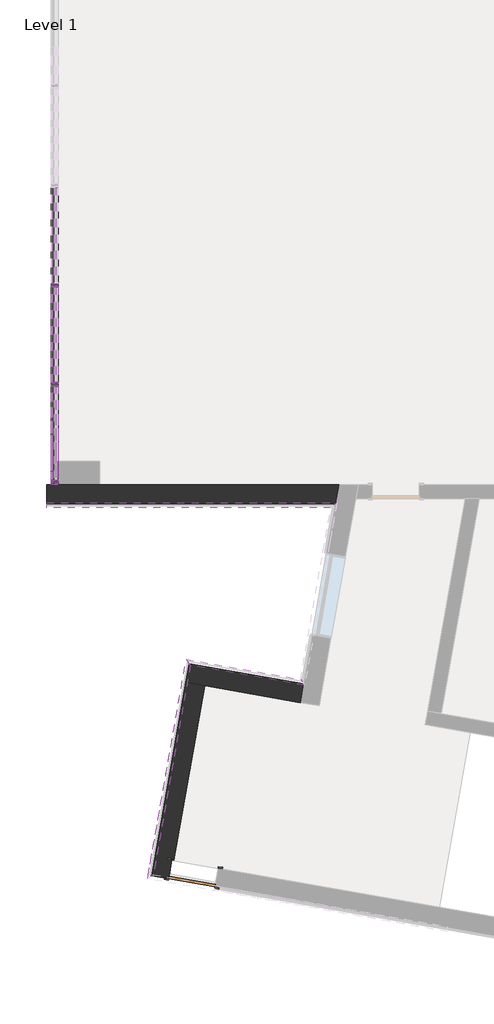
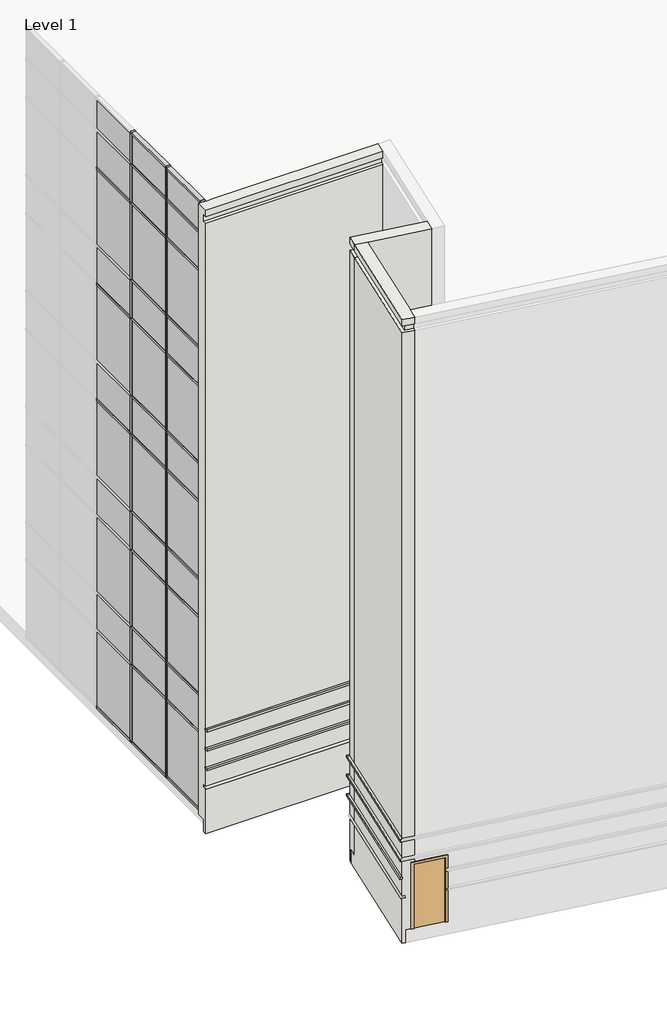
# One storey, part 1 of 23: 46 members, 33 plates, 9 proxies, 3 walls, 1 door.
"""IFC4 building model written with IfcOpenShell, lengths in millimetres."""

from ifc_helpers import new_model, si_unit, frame, origin, place, context, project, spatial, polyline, outline, extrude, faceted_brep, transform, mapped, element, save
from components import door_f5d74769, member_f92b8aa2, member_810865a4, member_6d5c3e5e, member_9764dd38, member_64ee9188, member_bca00a8a, member_8e09d03a, member_4d31274b, member_52939b3a, system_panel_glazed_14c75400, system_panel_glazed_4817d5da, system_panel_solid_5dfe6f83, system_panel_solid_e25e2004, system_panel_solid_b7551183, system_panel_solid_f88b124e, system_panel_solid_18cbf428, system_panel_solid_41530def

model = new_model("IFC4")

# Units and contexts
model_context = context("Model", 3, world=origin())
ifc_project = project(units=[si_unit("LENGTHUNIT", "METRE", prefix="MILLI")], contexts=[model_context])

# Site, building, storey
site = spatial("IfcSite", under=ifc_project)
building = spatial("IfcBuilding", under=site)
storey = spatial("IfcBuildingStorey", under=building, Name="Level 1", Elevation=0.0)

# Proxies
placement = place(None, origin())
element("IfcBuildingElementProxy", 1, Name="Reveals", at=placement, inside=storey, context=model_context, shape_type="SweptSolid", body=[
    extrude(outline(polyline([(-64209.7895211, -31309.2809359), (-64135.1020032, -31415.9457657), (-66236.287825, -31045.4500138), (-66310.9753429, -30938.785184), (-64209.7895211, -31309.2809359)])), frame((0.0, 0.0, 1625.6), z_axis=(0.0, 0.0, 1.0), x_axis=(1.0, 0.0, 0.0)), (0.0, 0.0, 1.0), 67.7333333),
])
element("IfcBuildingElementProxy", 2, Name="Reveals", at=placement, inside=storey, context=model_context, shape_type="SweptSolid", body=[
    extrude(outline(polyline([(-64209.7895211, -31309.2809359), (-64135.1020032, -31415.9457657), (-66236.287825, -31045.4500138), (-66310.9753429, -30938.785184), (-64209.7895211, -31309.2809359)])), frame((0.0, 0.0, 2235.2), z_axis=(0.0, 0.0, 1.0), x_axis=(1.0, 0.0, 0.0)), (0.0, 0.0, 1.0), 67.7333333),
])
element("IfcBuildingElementProxy", 3, Name="Reveals", at=placement, inside=storey, context=model_context, shape_type="SweptSolid", body=[
    extrude(outline(polyline([(-64209.7895211, -31309.2809359), (-64135.1020032, -31415.9457657), (-66236.287825, -31045.4500138), (-66310.9753429, -30938.785184), (-64209.7895211, -31309.2809359)])), frame((0.0, 0.0, 2844.8), z_axis=(0.0, 0.0, 1.0), x_axis=(1.0, 0.0, 0.0)), (0.0, 0.0, 1.0), 67.7333333),
])
element("IfcBuildingElementProxy", 4, Name="Reveals", at=placement, inside=storey, context=model_context, shape_type="SweptSolid", body=[
    extrude(outline(polyline([(-66310.9753429, -30938.785184), (-66236.287825, -31045.4500138), (-66919.9407005, -34922.6381374), (-67010.6168744, -34906.6494815), (-66310.9753429, -30938.785184)])), frame((0.0, 0.0, 1625.6), z_axis=(0.0, 0.0, 1.0), x_axis=(1.0, 0.0, 0.0)), (0.0, 0.0, 1.0), 67.7333333),
])
element("IfcBuildingElementProxy", 5, Name="Reveals", at=placement, inside=storey, context=model_context, shape_type="SweptSolid", body=[
    extrude(outline(polyline([(-66310.9753429, -30938.785184), (-66236.287825, -31045.4500138), (-66915.5300368, -34897.6240205), (-67022.1948666, -34972.3115384), (-66310.9753429, -30938.785184)])), frame((0.0, 0.0, 2235.2), z_axis=(0.0, 0.0, 1.0), x_axis=(1.0, 0.0, 0.0)), (0.0, 0.0, 1.0), 67.7333333),
])
element("IfcBuildingElementProxy", 6, Name="Reveals", at=placement, inside=storey, context=model_context, shape_type="SweptSolid", body=[
    extrude(outline(polyline([(-66310.9753429, -30938.785184), (-66236.287825, -31045.4500138), (-66915.5300368, -34897.6240205), (-67022.1948666, -34972.3115384), (-66310.9753429, -30938.785184)])), frame((0.0, 0.0, 2844.8), z_axis=(0.0, 0.0, 1.0), x_axis=(1.0, 0.0, 0.0)), (0.0, 0.0, 1.0), 67.7333333),
])
element("IfcBuildingElementProxy", 7, Name="Reveals", at=placement, inside=storey, context=model_context, shape_type="SweptSolid", body=[
    extrude(outline(polyline([(-63542.7957974, -28056.8103492), (-63652.5265095, -28148.8853492), (-68878.5489105, -28148.8853492), (-68878.5489105, -28056.8103492), (-63542.7957974, -28056.8103492)])), frame((0.0, 0.0, 1625.6), z_axis=(0.0, 0.0, 1.0), x_axis=(1.0, 0.0, 0.0)), (0.0, 0.0, 1.0), 67.7333333),
])
element("IfcBuildingElementProxy", 8, Name="Reveals", at=placement, inside=storey, context=model_context, shape_type="SweptSolid", body=[
    extrude(outline(polyline([(-63542.7957974, -28056.8103492), (-63652.5265095, -28148.8853492), (-68878.5489105, -28148.8853492), (-68878.5489105, -28056.8103492), (-63542.7957974, -28056.8103492)])), frame((0.0, 0.0, 2235.2), z_axis=(0.0, 0.0, 1.0), x_axis=(1.0, 0.0, 0.0)), (0.0, 0.0, 1.0), 67.7333333),
])
element("IfcBuildingElementProxy", 9, Name="Reveals", at=placement, inside=storey, context=model_context, shape_type="SweptSolid", body=[
    extrude(outline(polyline([(-63542.7957974, -28056.8103492), (-63652.5265095, -28148.8853492), (-68878.5489105, -28148.8853492), (-68878.5489105, -28056.8103492), (-63542.7957974, -28056.8103492)])), frame((0.0, 0.0, 2844.8), z_axis=(0.0, 0.0, 1.0), x_axis=(1.0, 0.0, 0.0)), (0.0, 0.0, 1.0), 67.7333333),
])

# Door
door_shape = door_f5d74769(model_context)
element("IfcDoor", 10, ObjectType="Single-Flush : 34\" x 80\"", at=placement, inside=storey, context=model_context, shape_type="MappedRepresentation", body=[
    mapped(door_shape, transform((-66179.5661532, -34874.2552841, 0.0), x_axis=(-0.9848077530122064, 0.17364817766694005, 0.0), y_axis=(-0.17364817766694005, -0.9848077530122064, 0.0), z_axis=(0.0, 0.0, 1.0))),
])

# Members
member_shape = member_f92b8aa2(model_context)
element("IfcMember", 11, ObjectType="Rectangular Mullion : 2.5\" x 5\" rectangular", at=placement, inside=storey, context=model_context, shape_type="MappedRepresentation", body=[
    mapped(member_shape, transform((-68724.2599961, -25885.1103492, 18288.0), x_axis=(0.0, 1.0, 0.0), y_axis=(1.0, 0.0, 0.0), z_axis=(0.0, 0.0, -1.0))),
])
element("IfcMember", 12, ObjectType="Rectangular Mullion : 2.5\" x 5\" rectangular", at=placement, inside=storey, context=model_context, shape_type="MappedRepresentation", body=[
    mapped(member_shape, transform((-68724.2599961, -24056.3103492, 18288.0), x_axis=(0.0, 1.0, 0.0), y_axis=(1.0, 0.0, 0.0), z_axis=(0.0, 0.0, -1.0))),
])
member_2_shape = member_810865a4(model_context)
element("IfcMember", 13, ObjectType="Rectangular Mullion : 2.5\" x 5\" rectangular", at=placement, inside=storey, context=model_context, shape_type="MappedRepresentation", body=[
    mapped(member_2_shape, transform((-68724.2599961, -25885.1103492, 3657.6), x_axis=(0.0, 1.0, 0.0), y_axis=(1.0, 0.0, 0.0), z_axis=(0.0, 0.0, -1.0))),
])
element("IfcMember", 14, ObjectType="Rectangular Mullion : 2.5\" x 5\" rectangular", at=placement, inside=storey, context=model_context, shape_type="MappedRepresentation", body=[
    mapped(member_2_shape, transform((-68724.2599961, -24056.3103492, 3657.6), x_axis=(0.0, 1.0, 0.0), y_axis=(1.0, 0.0, 0.0), z_axis=(0.0, 0.0, -1.0))),
])
element("IfcMember", 15, ObjectType="Rectangular Mullion : 2.5\" x 5\" rectangular", at=placement, inside=storey, context=model_context, shape_type="MappedRepresentation", body=[
    mapped(member_2_shape, transform((-68724.2599961, -25885.1103492, 7315.2), x_axis=(0.0, 1.0, 0.0), y_axis=(1.0, 0.0, 0.0), z_axis=(0.0, 0.0, -1.0))),
])
element("IfcMember", 16, ObjectType="Rectangular Mullion : 2.5\" x 5\" rectangular", at=placement, inside=storey, context=model_context, shape_type="MappedRepresentation", body=[
    mapped(member_2_shape, transform((-68724.2599961, -24056.3103492, 7315.2), x_axis=(0.0, 1.0, 0.0), y_axis=(1.0, 0.0, 0.0), z_axis=(0.0, 0.0, -1.0))),
])
element("IfcMember", 17, ObjectType="Rectangular Mullion : 2.5\" x 5\" rectangular", at=placement, inside=storey, context=model_context, shape_type="MappedRepresentation", body=[
    mapped(member_2_shape, transform((-68724.2599961, -25885.1103492, 10972.8), x_axis=(0.0, 1.0, 0.0), y_axis=(1.0, 0.0, 0.0), z_axis=(0.0, 0.0, -1.0))),
])
element("IfcMember", 18, ObjectType="Rectangular Mullion : 2.5\" x 5\" rectangular", at=placement, inside=storey, context=model_context, shape_type="MappedRepresentation", body=[
    mapped(member_2_shape, transform((-68724.2599961, -24056.3103492, 10972.8), x_axis=(0.0, 1.0, 0.0), y_axis=(1.0, 0.0, 0.0), z_axis=(0.0, 0.0, -1.0))),
])
element("IfcMember", 19, ObjectType="Rectangular Mullion : 2.5\" x 5\" rectangular", at=placement, inside=storey, context=model_context, shape_type="MappedRepresentation", body=[
    mapped(member_2_shape, transform((-68724.2599961, -25885.1103492, 14630.4), x_axis=(0.0, 1.0, 0.0), y_axis=(1.0, 0.0, 0.0), z_axis=(0.0, 0.0, -1.0))),
])
element("IfcMember", 20, ObjectType="Rectangular Mullion : 2.5\" x 5\" rectangular", at=placement, inside=storey, context=model_context, shape_type="MappedRepresentation", body=[
    mapped(member_2_shape, transform((-68724.2599961, -24056.3103492, 14630.4), x_axis=(0.0, 1.0, 0.0), y_axis=(1.0, 0.0, 0.0), z_axis=(0.0, 0.0, -1.0))),
])
member_3_shape = member_6d5c3e5e(model_context)
element("IfcMember", 21, ObjectType="Rectangular Mullion : 2.5\" x 5\" rectangular", at=placement, inside=storey, context=model_context, shape_type="MappedRepresentation", body=[
    mapped(member_3_shape, transform((-68724.2599961, -24088.0603492, 19304.0), x_axis=(0.0, 0.0, 1.0), y_axis=(1.0, 0.0, 0.0), z_axis=(0.0, 1.0, 0.0))),
])
member_4_shape = member_9764dd38(model_context)
element("IfcMember", 22, ObjectType="Rectangular Mullion : 2.5\" x 5\" rectangular", at=placement, inside=storey, context=model_context, shape_type="MappedRepresentation", body=[
    mapped(member_4_shape, transform((-68724.2599961, -22259.2603492, 17068.8), x_axis=(0.0, 0.0, 1.0), y_axis=(1.0, 0.0, 0.0), z_axis=(0.0, 1.0, 0.0))),
])
element("IfcMember", 23, ObjectType="Rectangular Mullion : 2.5\" x 5\" rectangular", at=placement, inside=storey, context=model_context, shape_type="MappedRepresentation", body=[
    mapped(member_4_shape, transform((-68724.2599961, -24088.0603492, 17068.8), x_axis=(0.0, 0.0, 1.0), y_axis=(1.0, 0.0, 0.0), z_axis=(0.0, 1.0, 0.0))),
])
element("IfcMember", 24, ObjectType="Rectangular Mullion : 2.5\" x 5\" rectangular", at=placement, inside=storey, context=model_context, shape_type="MappedRepresentation", body=[
    mapped(member_4_shape, transform((-68724.2599961, -22259.2603492, 13411.2), x_axis=(0.0, 0.0, 1.0), y_axis=(1.0, 0.0, 0.0), z_axis=(0.0, 1.0, 0.0))),
])
element("IfcMember", 25, ObjectType="Rectangular Mullion : 2.5\" x 5\" rectangular", at=placement, inside=storey, context=model_context, shape_type="MappedRepresentation", body=[
    mapped(member_4_shape, transform((-68724.2599961, -24088.0603492, 13411.2), x_axis=(0.0, 0.0, 1.0), y_axis=(1.0, 0.0, 0.0), z_axis=(0.0, 1.0, 0.0))),
])
element("IfcMember", 26, ObjectType="Rectangular Mullion : 2.5\" x 5\" rectangular", at=placement, inside=storey, context=model_context, shape_type="MappedRepresentation", body=[
    mapped(member_4_shape, transform((-68724.2599961, -22259.2603492, 9753.6), x_axis=(0.0, 0.0, 1.0), y_axis=(1.0, 0.0, 0.0), z_axis=(0.0, 1.0, 0.0))),
])
element("IfcMember", 27, ObjectType="Rectangular Mullion : 2.5\" x 5\" rectangular", at=placement, inside=storey, context=model_context, shape_type="MappedRepresentation", body=[
    mapped(member_4_shape, transform((-68724.2599961, -24088.0603492, 9753.6), x_axis=(0.0, 0.0, 1.0), y_axis=(1.0, 0.0, 0.0), z_axis=(0.0, 1.0, 0.0))),
])
element("IfcMember", 28, ObjectType="Rectangular Mullion : 2.5\" x 5\" rectangular", at=placement, inside=storey, context=model_context, shape_type="MappedRepresentation", body=[
    mapped(member_4_shape, transform((-68724.2599961, -24088.0603492, 6096.0), x_axis=(0.0, 0.0, 1.0), y_axis=(1.0, 0.0, 0.0), z_axis=(0.0, 1.0, 0.0))),
])
element("IfcMember", 29, ObjectType="Rectangular Mullion : 2.5\" x 5\" rectangular", at=placement, inside=storey, context=model_context, shape_type="MappedRepresentation", body=[
    mapped(member_4_shape, transform((-68724.2599961, -24088.0603492, 2470.15), x_axis=(0.0, 0.0, 1.0), y_axis=(1.0, 0.0, 0.0), z_axis=(0.0, 1.0, 0.0))),
])
element("IfcMember", 30, ObjectType="Rectangular Mullion : 2.5\" x 5\" rectangular", at=placement, inside=storey, context=model_context, shape_type="MappedRepresentation", body=[
    mapped(member_2_shape, transform((-68724.2599961, -25885.1103492, 0.0), x_axis=(0.0, 1.0, 0.0), y_axis=(1.0, 0.0, 0.0), z_axis=(0.0, 0.0, -1.0))),
])
element("IfcMember", 31, ObjectType="Rectangular Mullion : 2.5\" x 5\" rectangular", at=placement, inside=storey, context=model_context, shape_type="MappedRepresentation", body=[
    mapped(member_2_shape, transform((-68724.2599961, -24056.3103492, 0.0), x_axis=(0.0, 1.0, 0.0), y_axis=(1.0, 0.0, 0.0), z_axis=(0.0, 0.0, -1.0))),
])
element("IfcMember", 32, ObjectType="Rectangular Mullion : 2.5\" x 5\" rectangular", at=placement, inside=storey, context=model_context, shape_type="MappedRepresentation", body=[
    mapped(member_3_shape, transform((-68724.2599961, -25853.3603492, 0.0), x_axis=(0.0, 0.0, -1.0), y_axis=(1.0, 0.0, 0.0), z_axis=(0.0, -1.0, 0.0))),
])
element("IfcMember", 33, ObjectType="Rectangular Mullion : 2.5\" x 5\" rectangular", at=placement, inside=storey, context=model_context, shape_type="MappedRepresentation", body=[
    mapped(member_3_shape, transform((-68724.2599961, -24024.5603492, 0.0), x_axis=(0.0, 0.0, -1.0), y_axis=(1.0, 0.0, 0.0), z_axis=(0.0, -1.0, 0.0))),
])
element("IfcMember", 34, ObjectType="Rectangular Mullion : 2.5\" x 5\" rectangular", at=placement, inside=storey, context=model_context, shape_type="MappedRepresentation", body=[
    mapped(member_4_shape, transform((-68724.2599961, -24088.0603492, 3657.6), x_axis=(0.0, 0.0, 1.0), y_axis=(1.0, 0.0, 0.0), z_axis=(0.0, 1.0, 0.0))),
])
element("IfcMember", 35, ObjectType="Rectangular Mullion : 2.5\" x 5\" rectangular", at=placement, inside=storey, context=model_context, shape_type="MappedRepresentation", body=[
    mapped(member_4_shape, transform((-68724.2599961, -24088.0603492, 7315.2), x_axis=(0.0, 0.0, 1.0), y_axis=(1.0, 0.0, 0.0), z_axis=(0.0, 1.0, 0.0))),
])
element("IfcMember", 36, ObjectType="Rectangular Mullion : 2.5\" x 5\" rectangular", at=placement, inside=storey, context=model_context, shape_type="MappedRepresentation", body=[
    mapped(member_4_shape, transform((-68724.2599961, -24088.0603492, 10972.8), x_axis=(0.0, 0.0, 1.0), y_axis=(1.0, 0.0, 0.0), z_axis=(0.0, 1.0, 0.0))),
])
element("IfcMember", 37, ObjectType="Rectangular Mullion : 2.5\" x 5\" rectangular", at=placement, inside=storey, context=model_context, shape_type="MappedRepresentation", body=[
    mapped(member_4_shape, transform((-68724.2599961, -24088.0603492, 14630.4), x_axis=(0.0, 0.0, 1.0), y_axis=(1.0, 0.0, 0.0), z_axis=(0.0, 1.0, 0.0))),
])
element("IfcMember", 38, ObjectType="Rectangular Mullion : 2.5\" x 5\" rectangular", at=placement, inside=storey, context=model_context, shape_type="MappedRepresentation", body=[
    mapped(member_4_shape, transform((-68724.2599961, -24088.0603492, 18288.0), x_axis=(0.0, 0.0, 1.0), y_axis=(1.0, 0.0, 0.0), z_axis=(0.0, 1.0, 0.0))),
])
member_5_shape = member_64ee9188(model_context)
element("IfcMember", 39, ObjectType="Rectangular Mullion : 2.5\" x 5\" rectangular", at=placement, inside=storey, context=model_context, shape_type="MappedRepresentation", body=[
    mapped(member_5_shape, transform((-68724.2599961, -25916.8603492, 19304.0), x_axis=(0.0, 0.0, 1.0), y_axis=(1.0, 0.0, 0.0), z_axis=(0.0, 1.0, 0.0))),
])
element("IfcMember", 40, ObjectType="Rectangular Mullion : 2.5\" x 5\" rectangular", at=placement, inside=storey, context=model_context, shape_type="MappedRepresentation", body=[
    mapped(member_5_shape, transform((-68724.2599961, -27650.4103492, 0.0), x_axis=(0.0, 0.0, -1.0), y_axis=(1.0, 0.0, 0.0), z_axis=(0.0, -1.0, 0.0))),
])
member_6_shape = member_bca00a8a(model_context)
element("IfcMember", 41, ObjectType="Rectangular Mullion : 2.5\" x 5\" rectangular", at=placement, inside=storey, context=model_context, shape_type="MappedRepresentation", body=[
    mapped(member_6_shape, transform((-68724.2599961, -25916.8603492, 3657.6), x_axis=(0.0, 0.0, 1.0), y_axis=(1.0, 0.0, 0.0), z_axis=(0.0, 1.0, 0.0))),
])
element("IfcMember", 42, ObjectType="Rectangular Mullion : 2.5\" x 5\" rectangular", at=placement, inside=storey, context=model_context, shape_type="MappedRepresentation", body=[
    mapped(member_6_shape, transform((-68724.2599961, -25916.8603492, 7315.2), x_axis=(0.0, 0.0, 1.0), y_axis=(1.0, 0.0, 0.0), z_axis=(0.0, 1.0, 0.0))),
])
element("IfcMember", 43, ObjectType="Rectangular Mullion : 2.5\" x 5\" rectangular", at=placement, inside=storey, context=model_context, shape_type="MappedRepresentation", body=[
    mapped(member_6_shape, transform((-68724.2599961, -25916.8603492, 10972.8), x_axis=(0.0, 0.0, 1.0), y_axis=(1.0, 0.0, 0.0), z_axis=(0.0, 1.0, 0.0))),
])
element("IfcMember", 44, ObjectType="Rectangular Mullion : 2.5\" x 5\" rectangular", at=placement, inside=storey, context=model_context, shape_type="MappedRepresentation", body=[
    mapped(member_6_shape, transform((-68724.2599961, -25916.8603492, 14630.4), x_axis=(0.0, 0.0, 1.0), y_axis=(1.0, 0.0, 0.0), z_axis=(0.0, 1.0, 0.0))),
])
element("IfcMember", 45, ObjectType="Rectangular Mullion : 2.5\" x 5\" rectangular", at=placement, inside=storey, context=model_context, shape_type="MappedRepresentation", body=[
    mapped(member_6_shape, transform((-68724.2599961, -25916.8603492, 18288.0), x_axis=(0.0, 0.0, 1.0), y_axis=(1.0, 0.0, 0.0), z_axis=(0.0, 1.0, 0.0))),
])
member_7_shape = member_8e09d03a(model_context)
element("IfcMember", 46, ObjectType="Rectangular Mullion : 2.5\" x 5\" rectangular", at=placement, inside=storey, context=model_context, shape_type="MappedRepresentation", body=[
    mapped(member_7_shape, transform((-68724.2599961, -27713.9103492, 19304.0), x_axis=(0.0, -1.0, 0.0), y_axis=(1.0, 0.0, 0.0), z_axis=(0.0, 0.0, 1.0))),
])
member_8_shape = member_4d31274b(model_context)
element("IfcMember", 47, ObjectType="Rectangular Mullion : 2.5\" x 5\" rectangular", at=placement, inside=storey, context=model_context, shape_type="MappedRepresentation", body=[
    mapped(member_8_shape, transform((-68724.2599961, -27713.9103492, 3657.6), x_axis=(0.0, -1.0, 0.0), y_axis=(1.0, 0.0, 0.0), z_axis=(0.0, 0.0, 1.0))),
])
element("IfcMember", 48, ObjectType="Rectangular Mullion : 2.5\" x 5\" rectangular", at=placement, inside=storey, context=model_context, shape_type="MappedRepresentation", body=[
    mapped(member_8_shape, transform((-68724.2599961, -27713.9103492, 7315.2), x_axis=(0.0, -1.0, 0.0), y_axis=(1.0, 0.0, 0.0), z_axis=(0.0, 0.0, 1.0))),
])
element("IfcMember", 49, ObjectType="Rectangular Mullion : 2.5\" x 5\" rectangular", at=placement, inside=storey, context=model_context, shape_type="MappedRepresentation", body=[
    mapped(member_8_shape, transform((-68724.2599961, -27713.9103492, 10972.8), x_axis=(0.0, -1.0, 0.0), y_axis=(1.0, 0.0, 0.0), z_axis=(0.0, 0.0, 1.0))),
])
element("IfcMember", 50, ObjectType="Rectangular Mullion : 2.5\" x 5\" rectangular", at=placement, inside=storey, context=model_context, shape_type="MappedRepresentation", body=[
    mapped(member_8_shape, transform((-68724.2599961, -27713.9103492, 14630.4), x_axis=(0.0, -1.0, 0.0), y_axis=(1.0, 0.0, 0.0), z_axis=(0.0, 0.0, 1.0))),
])
element("IfcMember", 51, ObjectType="Rectangular Mullion : 2.5\" x 5\" rectangular", at=placement, inside=storey, context=model_context, shape_type="MappedRepresentation", body=[
    mapped(member_8_shape, transform((-68724.2599961, -27713.9103492, 18288.0), x_axis=(0.0, -1.0, 0.0), y_axis=(1.0, 0.0, 0.0), z_axis=(0.0, 0.0, 1.0))),
])
member_9_shape = member_52939b3a(model_context)
element("IfcMember", 52, ObjectType="Rectangular Mullion : 2.5\" x 5\" rectangular", at=placement, inside=storey, context=model_context, shape_type="MappedRepresentation", body=[
    mapped(member_9_shape, transform((-68724.2599961, -25916.8603492, 17068.8), x_axis=(0.0, 0.0, 1.0), y_axis=(1.0, 0.0, 0.0), z_axis=(0.0, 1.0, 0.0))),
])
element("IfcMember", 53, ObjectType="Rectangular Mullion : 2.5\" x 5\" rectangular", at=placement, inside=storey, context=model_context, shape_type="MappedRepresentation", body=[
    mapped(member_9_shape, transform((-68724.2599961, -25916.8603492, 13411.2), x_axis=(0.0, 0.0, 1.0), y_axis=(1.0, 0.0, 0.0), z_axis=(0.0, 1.0, 0.0))),
])
element("IfcMember", 54, ObjectType="Rectangular Mullion : 2.5\" x 5\" rectangular", at=placement, inside=storey, context=model_context, shape_type="MappedRepresentation", body=[
    mapped(member_9_shape, transform((-68724.2599961, -25916.8603492, 9753.6), x_axis=(0.0, 0.0, 1.0), y_axis=(1.0, 0.0, 0.0), z_axis=(0.0, 1.0, 0.0))),
])
element("IfcMember", 55, ObjectType="Rectangular Mullion : 2.5\" x 5\" rectangular", at=placement, inside=storey, context=model_context, shape_type="MappedRepresentation", body=[
    mapped(member_9_shape, transform((-68724.2599961, -25916.8603492, 6096.0), x_axis=(0.0, 0.0, 1.0), y_axis=(1.0, 0.0, 0.0), z_axis=(0.0, 1.0, 0.0))),
])
element("IfcMember", 56, ObjectType="Rectangular Mullion : 2.5\" x 5\" rectangular", at=placement, inside=storey, context=model_context, shape_type="MappedRepresentation", body=[
    mapped(member_9_shape, transform((-68724.2599961, -25916.8603492, 2470.15), x_axis=(0.0, 0.0, 1.0), y_axis=(1.0, 0.0, 0.0), z_axis=(0.0, 1.0, 0.0))),
])

# Plates
system_panel_glazed_shape = system_panel_glazed_14c75400(model_context)
element("IfcPlate", 57, ObjectType="System Panel : Glazed", at=placement, inside=storey, context=model_context, shape_type="MappedRepresentation", body=[
    mapped(system_panel_glazed_shape, transform((-68724.2599961, -23141.9103492, 14662.15), x_axis=(0.0, 1.0, 0.0), y_axis=(-1.0, 0.0, 0.0), z_axis=(0.0, 0.0, 1.0))),
])
element("IfcPlate", 58, ObjectType="System Panel : Glazed", at=placement, inside=storey, context=model_context, shape_type="MappedRepresentation", body=[
    mapped(system_panel_glazed_shape, transform((-68724.2599961, -24970.7103492, 14662.15), x_axis=(0.0, 1.0, 0.0), y_axis=(-1.0, 0.0, 0.0), z_axis=(0.0, 0.0, 1.0))),
])
element("IfcPlate", 59, ObjectType="System Panel : Glazed", at=placement, inside=storey, context=model_context, shape_type="MappedRepresentation", body=[
    mapped(system_panel_glazed_shape, transform((-68724.2599961, -23141.9103492, 11004.55), x_axis=(0.0, 1.0, 0.0), y_axis=(-1.0, 0.0, 0.0), z_axis=(0.0, 0.0, 1.0))),
])
element("IfcPlate", 60, ObjectType="System Panel : Glazed", at=placement, inside=storey, context=model_context, shape_type="MappedRepresentation", body=[
    mapped(system_panel_glazed_shape, transform((-68724.2599961, -24970.7103492, 11004.55), x_axis=(0.0, 1.0, 0.0), y_axis=(-1.0, 0.0, 0.0), z_axis=(0.0, 0.0, 1.0))),
])
element("IfcPlate", 61, ObjectType="System Panel : Glazed", at=placement, inside=storey, context=model_context, shape_type="MappedRepresentation", body=[
    mapped(system_panel_glazed_shape, transform((-68724.2599961, -23141.9103492, 7346.95), x_axis=(0.0, 1.0, 0.0), y_axis=(-1.0, 0.0, 0.0), z_axis=(0.0, 0.0, 1.0))),
])
element("IfcPlate", 62, ObjectType="System Panel : Glazed", at=placement, inside=storey, context=model_context, shape_type="MappedRepresentation", body=[
    mapped(system_panel_glazed_shape, transform((-68724.2599961, -24970.7103492, 7346.95), x_axis=(0.0, 1.0, 0.0), y_axis=(-1.0, 0.0, 0.0), z_axis=(0.0, 0.0, 1.0))),
])
element("IfcPlate", 63, ObjectType="System Panel : Glazed", at=placement, inside=storey, context=model_context, shape_type="MappedRepresentation", body=[
    mapped(system_panel_glazed_shape, transform((-68724.2599961, -23141.9103492, 3689.35), x_axis=(0.0, 1.0, 0.0), y_axis=(-1.0, 0.0, 0.0), z_axis=(0.0, 0.0, 1.0))),
])
element("IfcPlate", 64, ObjectType="System Panel : Glazed", at=placement, inside=storey, context=model_context, shape_type="MappedRepresentation", body=[
    mapped(system_panel_glazed_shape, transform((-68724.2599961, -24970.7103492, 3689.35), x_axis=(0.0, 1.0, 0.0), y_axis=(-1.0, 0.0, 0.0), z_axis=(0.0, 0.0, 1.0))),
])
element("IfcPlate", 65, ObjectType="System Panel : Glazed", at=placement, inside=storey, context=model_context, shape_type="MappedRepresentation", body=[
    mapped(system_panel_glazed_shape, transform((-68724.2599961, -23141.9103492, 63.5), x_axis=(0.0, 1.0, 0.0), y_axis=(-1.0, 0.0, 0.0), z_axis=(0.0, 0.0, 1.0))),
])
element("IfcPlate", 66, ObjectType="System Panel : Glazed", at=placement, inside=storey, context=model_context, shape_type="MappedRepresentation", body=[
    mapped(system_panel_glazed_shape, transform((-68724.2599961, -24970.7103492, 63.5), x_axis=(0.0, 1.0, 0.0), y_axis=(-1.0, 0.0, 0.0), z_axis=(0.0, 0.0, 1.0))),
])
system_panel_glazed_2_shape = system_panel_glazed_4817d5da(model_context)
element("IfcPlate", 67, ObjectType="System Panel : Glazed", at=placement, inside=storey, context=model_context, shape_type="MappedRepresentation", body=[
    mapped(system_panel_glazed_2_shape, transform((-68724.2599961, -26823.3228492, 14662.15), x_axis=(0.0, 1.0, 0.0), y_axis=(-1.0, 0.0, 0.0), z_axis=(0.0, 0.0, 1.0))),
])
element("IfcPlate", 68, ObjectType="System Panel : Glazed", at=placement, inside=storey, context=model_context, shape_type="MappedRepresentation", body=[
    mapped(system_panel_glazed_2_shape, transform((-68724.2599961, -26823.3228492, 11004.55), x_axis=(0.0, 1.0, 0.0), y_axis=(-1.0, 0.0, 0.0), z_axis=(0.0, 0.0, 1.0))),
])
element("IfcPlate", 69, ObjectType="System Panel : Glazed", at=placement, inside=storey, context=model_context, shape_type="MappedRepresentation", body=[
    mapped(system_panel_glazed_2_shape, transform((-68724.2599961, -26823.3228492, 7346.95), x_axis=(0.0, 1.0, 0.0), y_axis=(-1.0, 0.0, 0.0), z_axis=(0.0, 0.0, 1.0))),
])
element("IfcPlate", 70, ObjectType="System Panel : Glazed", at=placement, inside=storey, context=model_context, shape_type="MappedRepresentation", body=[
    mapped(system_panel_glazed_2_shape, transform((-68724.2599961, -26823.3228492, 3689.35), x_axis=(0.0, 1.0, 0.0), y_axis=(-1.0, 0.0, 0.0), z_axis=(0.0, 0.0, 1.0))),
])
element("IfcPlate", 71, ObjectType="System Panel : Glazed", at=placement, inside=storey, context=model_context, shape_type="MappedRepresentation", body=[
    mapped(system_panel_glazed_2_shape, transform((-68724.2599961, -26823.3228492, 63.5), x_axis=(0.0, 1.0, 0.0), y_axis=(-1.0, 0.0, 0.0), z_axis=(0.0, 0.0, 1.0))),
])
system_panel_solid_shape = system_panel_solid_5dfe6f83(model_context)
element("IfcPlate", 72, ObjectType="System Panel : Solid", at=placement, inside=storey, context=model_context, shape_type="MappedRepresentation", body=[
    mapped(system_panel_solid_shape, transform((-68724.2599961, -24970.7103492, 18319.75), x_axis=(0.0, 1.0, 0.0), y_axis=(-1.0, 0.0, 0.0), z_axis=(0.0, 0.0, 1.0))),
])
element("IfcPlate", 73, ObjectType="System Panel : Solid", at=placement, inside=storey, context=model_context, shape_type="MappedRepresentation", body=[
    mapped(system_panel_solid_shape, transform((-68724.2599961, -23141.9103492, 18319.75), x_axis=(0.0, 1.0, 0.0), y_axis=(-1.0, 0.0, 0.0), z_axis=(0.0, 0.0, 1.0))),
])
system_panel_solid_2_shape = system_panel_solid_e25e2004(model_context)
element("IfcPlate", 74, ObjectType="System Panel : Solid", at=placement, inside=storey, context=model_context, shape_type="MappedRepresentation", body=[
    mapped(system_panel_solid_2_shape, transform((-68724.2599961, -23141.9103492, 17100.55), x_axis=(0.0, 1.0, 0.0), y_axis=(-1.0, 0.0, 0.0), z_axis=(0.0, 0.0, 1.0))),
])
element("IfcPlate", 75, ObjectType="System Panel : Solid", at=placement, inside=storey, context=model_context, shape_type="MappedRepresentation", body=[
    mapped(system_panel_solid_2_shape, transform((-68724.2599961, -24970.7103492, 17100.55), x_axis=(0.0, 1.0, 0.0), y_axis=(-1.0, 0.0, 0.0), z_axis=(0.0, 0.0, 1.0))),
])
element("IfcPlate", 76, ObjectType="System Panel : Solid", at=placement, inside=storey, context=model_context, shape_type="MappedRepresentation", body=[
    mapped(system_panel_solid_2_shape, transform((-68724.2599961, -23141.9103492, 13442.95), x_axis=(0.0, 1.0, 0.0), y_axis=(-1.0, 0.0, 0.0), z_axis=(0.0, 0.0, 1.0))),
])
element("IfcPlate", 77, ObjectType="System Panel : Solid", at=placement, inside=storey, context=model_context, shape_type="MappedRepresentation", body=[
    mapped(system_panel_solid_2_shape, transform((-68724.2599961, -24970.7103492, 13442.95), x_axis=(0.0, 1.0, 0.0), y_axis=(-1.0, 0.0, 0.0), z_axis=(0.0, 0.0, 1.0))),
])
element("IfcPlate", 78, ObjectType="System Panel : Solid", at=placement, inside=storey, context=model_context, shape_type="MappedRepresentation", body=[
    mapped(system_panel_solid_2_shape, transform((-68724.2599961, -23141.9103492, 9785.35), x_axis=(0.0, 1.0, 0.0), y_axis=(-1.0, 0.0, 0.0), z_axis=(0.0, 0.0, 1.0))),
])
element("IfcPlate", 79, ObjectType="System Panel : Solid", at=placement, inside=storey, context=model_context, shape_type="MappedRepresentation", body=[
    mapped(system_panel_solid_2_shape, transform((-68724.2599961, -24970.7103492, 9785.35), x_axis=(0.0, 1.0, 0.0), y_axis=(-1.0, 0.0, 0.0), z_axis=(0.0, 0.0, 1.0))),
])
element("IfcPlate", 80, ObjectType="System Panel : Solid", at=placement, inside=storey, context=model_context, shape_type="MappedRepresentation", body=[
    mapped(system_panel_solid_2_shape, transform((-68724.2599961, -23141.9103492, 6127.75), x_axis=(0.0, 1.0, 0.0), y_axis=(-1.0, 0.0, 0.0), z_axis=(0.0, 0.0, 1.0))),
])
element("IfcPlate", 81, ObjectType="System Panel : Solid", at=placement, inside=storey, context=model_context, shape_type="MappedRepresentation", body=[
    mapped(system_panel_solid_2_shape, transform((-68724.2599961, -24970.7103492, 6127.75), x_axis=(0.0, 1.0, 0.0), y_axis=(-1.0, 0.0, 0.0), z_axis=(0.0, 0.0, 1.0))),
])
system_panel_solid_3_shape = system_panel_solid_b7551183(model_context)
element("IfcPlate", 82, ObjectType="System Panel : Solid", at=placement, inside=storey, context=model_context, shape_type="MappedRepresentation", body=[
    mapped(system_panel_solid_3_shape, transform((-68724.2599961, -23141.9103492, 2501.9), x_axis=(0.0, 1.0, 0.0), y_axis=(-1.0, 0.0, 0.0), z_axis=(0.0, 0.0, 1.0))),
])
element("IfcPlate", 83, ObjectType="System Panel : Solid", at=placement, inside=storey, context=model_context, shape_type="MappedRepresentation", body=[
    mapped(system_panel_solid_3_shape, transform((-68724.2599961, -24970.7103492, 2501.9), x_axis=(0.0, 1.0, 0.0), y_axis=(-1.0, 0.0, 0.0), z_axis=(0.0, 0.0, 1.0))),
])
system_panel_solid_4_shape = system_panel_solid_f88b124e(model_context)
element("IfcPlate", 84, ObjectType="System Panel : Solid", at=placement, inside=storey, context=model_context, shape_type="MappedRepresentation", body=[
    mapped(system_panel_solid_4_shape, transform((-68724.2599961, -26783.6353492, 18319.75), x_axis=(0.0, 1.0, 0.0), y_axis=(-1.0, 0.0, 0.0), z_axis=(0.0, 0.0, 1.0))),
])
system_panel_solid_5_shape = system_panel_solid_18cbf428(model_context)
element("IfcPlate", 85, ObjectType="System Panel : Solid", at=placement, inside=storey, context=model_context, shape_type="MappedRepresentation", body=[
    mapped(system_panel_solid_5_shape, transform((-68724.2599961, -26823.3228492, 17100.55), x_axis=(0.0, 1.0, 0.0), y_axis=(-1.0, 0.0, 0.0), z_axis=(0.0, 0.0, 1.0))),
])
element("IfcPlate", 86, ObjectType="System Panel : Solid", at=placement, inside=storey, context=model_context, shape_type="MappedRepresentation", body=[
    mapped(system_panel_solid_5_shape, transform((-68724.2599961, -26823.3228492, 13442.95), x_axis=(0.0, 1.0, 0.0), y_axis=(-1.0, 0.0, 0.0), z_axis=(0.0, 0.0, 1.0))),
])
element("IfcPlate", 87, ObjectType="System Panel : Solid", at=placement, inside=storey, context=model_context, shape_type="MappedRepresentation", body=[
    mapped(system_panel_solid_5_shape, transform((-68724.2599961, -26823.3228492, 9785.35), x_axis=(0.0, 1.0, 0.0), y_axis=(-1.0, 0.0, 0.0), z_axis=(0.0, 0.0, 1.0))),
])
element("IfcPlate", 88, ObjectType="System Panel : Solid", at=placement, inside=storey, context=model_context, shape_type="MappedRepresentation", body=[
    mapped(system_panel_solid_5_shape, transform((-68724.2599961, -26823.3228492, 6127.75), x_axis=(0.0, 1.0, 0.0), y_axis=(-1.0, 0.0, 0.0), z_axis=(0.0, 0.0, 1.0))),
])
system_panel_solid_6_shape = system_panel_solid_41530def(model_context)
element("IfcPlate", 89, ObjectType="System Panel : Solid", at=placement, inside=storey, context=model_context, shape_type="MappedRepresentation", body=[
    mapped(system_panel_solid_6_shape, transform((-68724.2599961, -26823.3228492, 2501.9), x_axis=(0.0, 1.0, 0.0), y_axis=(-1.0, 0.0, 0.0), z_axis=(0.0, 0.0, 1.0))),
])

# Walls
element("IfcWall", 90, ObjectType="Exterior - Brick and CMU on MTL. Stud", at=placement, inside=storey, context=model_context, shape_type="Brep", body=[
    faceted_brep([(-66256.8912782, -31016.0252332, 19304.0), (-64155.7054564, -31386.5209851, 19304.0), (-64155.7054564, -31386.5209851, 19100.8), (-66256.8912782, -31016.0252332, 19100.8), (-64155.7054564, -31386.5209851, -406.4), (-66256.8912782, -31016.0252332, -406.4), (-66256.8912782, -31016.0252332, 1016.0), (-64155.7054564, -31386.5209851, 1016.0), (-64155.7054564, -31386.5209851, 1693.3333333), (-66256.8912782, -31016.0252332, 1693.3333333), (-66256.8912782, -31016.0252332, 2235.2), (-64155.7054564, -31386.5209851, 2235.2), (-66256.8912782, -31016.0252332, 1625.6), (-64155.7054564, -31386.5209851, 1625.6), (-64155.7054564, -31386.5209851, 1085.85), (-66256.8912782, -31016.0252332, 1085.85), (-64155.7054564, -31386.5209851, 2302.9333333), (-66256.8912782, -31016.0252332, 2302.9333333), (-66256.8912782, -31016.0252332, 2844.8), (-64155.7054564, -31386.5209851, 2844.8), (-64155.7054564, -31386.5209851, 2912.5333333), (-66256.8912782, -31016.0252332, 2912.5333333), (-66256.8912782, -31016.0252332, 18897.6), (-64155.7054564, -31386.5209851, 18897.6), (-66318.0892373, -31363.0961055, 0.0), (-65971.0183649, -31424.2940646, 0.0), (-64216.9034154, -31733.5918574, 0.0), (-64216.9034154, -31733.5918574, 19304.0), (-65971.0183649, -31424.2940646, 19304.0), (-66318.0892373, -31363.0961055, 19304.0), (-66318.0892373, -31363.0961055, 19100.8), (-66227.4130634, -31379.0847615, 19100.8), (-66227.4130634, -31379.0847615, 18897.6), (-66318.0892373, -31363.0961055, 18897.6), (-66318.0892373, -31363.0961055, 2912.5333333), (-66293.0751203, -31367.5067693, 2912.5333333), (-66293.0751203, -31367.5067693, 2844.8), (-66318.0892373, -31363.0961055, 2844.8), (-66318.0892373, -31363.0961055, 2302.9333333), (-66293.0751203, -31367.5067693, 2302.9333333), (-66293.0751203, -31367.5067693, 2235.2), (-66318.0892373, -31363.0961055, 2235.2), (-66318.0892373, -31363.0961055, 1693.3333333), (-66293.0751203, -31367.5067693, 1693.3333333), (-66293.0751203, -31367.5067693, 1625.6), (-66318.0892373, -31363.0961055, 1625.6), (-66318.0892373, -31363.0961055, 1085.85), (-66227.4130634, -31379.0847615, 1085.85), (-66227.4130634, -31379.0847615, 1016.0), (-66318.0892373, -31363.0961055, 1016.0), (-64171.6941124, -31477.1971589, 0.0), (-64171.6941124, -31477.1971589, -406.4), (-64171.6941124, -31477.1971589, 1016.0), (-64171.6941124, -31477.1971589, 1085.85), (-64160.1161201, -31411.535102, 1625.6), (-64160.1161201, -31411.535102, 1693.3333333), (-64160.1161201, -31411.535102, 2235.2), (-64160.1161201, -31411.535102, 2302.9333333), (-64160.1161201, -31411.535102, 2844.8), (-64160.1161201, -31411.535102, 2912.5333333), (-64171.6941124, -31477.1971589, 18897.6), (-64171.6941124, -31477.1971589, 19100.8), (-66272.8799342, -31106.701407, 0.0), (-66272.8799342, -31106.701407, -406.4), (-66182.2037603, -31122.690063, 0.0), (-66236.287825, -31045.4500138, 1693.3333333), (-66236.287825, -31045.4500138, 1625.6), (-66236.287825, -31045.4500138, 2302.9333333), (-66236.287825, -31045.4500138, 2235.2), (-66236.287825, -31045.4500138, 2912.5333333), (-66236.287825, -31045.4500138, 2844.8), (-66182.2037603, -31122.690063, 1085.85), (-66182.2037603, -31122.690063, 1016.0), (-66182.2037603, -31122.690063, 18897.6), (-66182.2037603, -31122.690063, 19100.8), (-66182.2037603, -31122.690063, -406.4)], [[[0, 1, 2, 3]], [[4, 5, 6, 7]], [[8, 9, 10, 11]], [[12, 13, 14, 15]], [[16, 17, 18, 19]], [[20, 21, 22, 23]], [[24, 25, 26, 27, 28, 29, 30, 31, 32, 33, 34, 35, 36, 37, 38, 39, 40, 41, 42, 43, 44, 45, 46, 47, 48, 49]], [[1, 0, 29, 28, 27]], [[1, 27, 26, 50, 51, 4, 7, 52, 53, 14, 13, 54, 55, 8, 11, 56, 57, 16, 19, 58, 59, 20, 23, 60, 61, 2]], [[29, 0, 3, 30]], [[9, 42, 41, 10]], [[45, 12, 15, 46]], [[17, 38, 37, 18]], [[21, 34, 33, 22]], [[62, 24, 49, 6, 5, 63]], [[26, 25, 24, 62, 64, 50]], [[43, 42, 9, 8, 55, 65]], [[45, 44, 66, 54, 13, 12]], [[66, 65, 55, 54]], [[65, 66, 44, 43]], [[39, 38, 17, 16, 57, 67]], [[41, 40, 68, 56, 11, 10]], [[68, 67, 57, 56]], [[67, 68, 40, 39]], [[35, 34, 21, 20, 59, 69]], [[37, 36, 70, 58, 19, 18]], [[70, 69, 59, 58]], [[69, 70, 36, 35]], [[47, 46, 15, 14, 53, 71]], [[49, 48, 72, 52, 7, 6]], [[72, 71, 53, 52]], [[71, 72, 48, 47]], [[32, 73, 60, 23, 22, 33]], [[61, 74, 31, 30, 3, 2]], [[73, 74, 61, 60]], [[74, 73, 32, 31]], [[51, 50, 64, 62, 63, 75]], [[5, 4, 51, 75, 63]]]),
])
element("IfcWall", 91, ObjectType="Exterior - Brick and CMU on MTL. Stud", at=placement, inside=storey, context=model_context, shape_type="Brep", body=[
    faceted_brep([(-66944.9548174, -34918.2274737, 19304.0), (-66318.0892373, -31363.0961055, 19304.0), (-66318.0892373, -31363.0961055, 19100.8), (-66944.9548174, -34918.2274737, 19100.8), (-66318.0892373, -31363.0961055, 1693.3333333), (-66944.9548174, -34918.2274737, 1693.3333333), (-66944.9548174, -34918.2274737, 2235.2), (-66318.0892373, -31363.0961055, 2235.2), (-66944.9548174, -34918.2274737, 1625.6), (-66318.0892373, -31363.0961055, 1625.6), (-66318.0892373, -31363.0961055, 1085.85), (-66944.9548174, -34918.2274737, 1085.85), (-66318.0892373, -31363.0961055, 2302.9333333), (-66944.9548174, -34918.2274737, 2302.9333333), (-66944.9548174, -34918.2274737, 2844.8), (-66318.0892373, -31363.0961055, 2844.8), (-66318.0892373, -31363.0961055, 2912.5333333), (-66944.9548174, -34918.2274737, 2912.5333333), (-66944.9548174, -34918.2274737, 18897.6), (-66318.0892373, -31363.0961055, 18897.6), (-66944.9548174, -34918.2274737, -406.4), (-66944.9548174, -34918.2274737, 1016.0), (-66318.0892373, -31363.0961055, 1016.0), (-66318.0892373, -31363.0961055, 0.0), (-66272.8799342, -31106.701407, 0.0), (-66272.8799342, -31106.701407, -406.4), (-65971.0183649, -31424.2940646, 19304.0), (-66536.6859861, -34632.3545604, 19304.0), (-66597.8839451, -34979.4254327, 19304.0), (-66597.8839451, -34979.4254327, 19100.8), (-66581.8952891, -34888.7492589, 19100.8), (-66581.8952891, -34888.7492589, 18897.6), (-66597.8839451, -34979.4254327, 18897.6), (-66597.8839451, -34979.4254327, 2912.5333333), (-66593.4732814, -34954.4113158, 2912.5333333), (-66593.4732814, -34954.4113158, 2844.8), (-66597.8839451, -34979.4254327, 2844.8), (-66597.8839451, -34979.4254327, 2302.9333333), (-66593.4732814, -34954.4113158, 2302.9333333), (-66593.4732814, -34954.4113158, 2235.2), (-66597.8839451, -34979.4254327, 2235.2), (-66597.8839451, -34979.4254327, 2032.0), (-66536.6859861, -34632.3545604, 2032.0), (-66536.6859861, -34632.3545604, 0.0), (-65971.0183649, -31424.2940646, 0.0), (-66227.4130634, -31379.0847615, 0.0), (-66227.4130634, -31379.0847615, 1016.0), (-66227.4130634, -31379.0847615, 1085.85), (-66293.0751203, -31367.5067693, 1625.6), (-66293.0751203, -31367.5067693, 1693.3333333), (-66293.0751203, -31367.5067693, 2235.2), (-66293.0751203, -31367.5067693, 2302.9333333), (-66293.0751203, -31367.5067693, 2844.8), (-66293.0751203, -31367.5067693, 2912.5333333), (-66227.4130634, -31379.0847615, 18897.6), (-66227.4130634, -31379.0847615, 19100.8), (-66854.2786436, -34934.2161297, -406.4), (-66854.2786436, -34934.2161297, 0.0), (-66635.4051205, -34972.8094372, 0.0), (-66635.4051205, -34972.8094372, 2032.0), (-66919.9407005, -34922.6381374, 1693.3333333), (-66919.9407005, -34922.6381374, 1625.6), (-66854.2786436, -34934.2161297, 1085.85), (-66854.2786436, -34934.2161297, 1016.0), (-66574.2071614, -34625.7385648, 0.0), (-66838.2899876, -34843.5399558, 0.0), (-66915.5300368, -34897.6240205, 2302.9333333), (-66915.5300368, -34897.6240205, 2235.2), (-66915.5300368, -34897.6240205, 2912.5333333), (-66915.5300368, -34897.6240205, 2844.8), (-66838.2899876, -34843.5399558, 18897.6), (-66838.2899876, -34843.5399558, 19100.8), (-66838.2899876, -34843.5399558, -406.4), (-66182.2037603, -31122.690063, -406.4), (-66182.2037603, -31122.690063, 0.0), (-66574.2071614, -34625.7385648, 2032.0)], [[[0, 1, 2, 3]], [[4, 5, 6, 7]], [[8, 9, 10, 11]], [[12, 13, 14, 15]], [[16, 17, 18, 19]], [[20, 21, 22, 23, 24, 25]], [[26, 27, 28, 29, 30, 31, 32, 33, 34, 35, 36, 37, 38, 39, 40, 41, 42, 43, 44]], [[1, 0, 28, 27, 26]], [[1, 26, 44, 45, 23, 22, 46, 47, 10, 9, 48, 49, 4, 7, 50, 51, 12, 15, 52, 53, 16, 19, 54, 55, 2]], [[28, 0, 3, 29]], [[13, 37, 36, 14]], [[17, 33, 32, 18]], [[56, 57, 58, 59, 41, 40, 6, 5, 60, 61, 8, 11, 62, 63, 21, 20]], [[45, 44, 43, 64, 58, 57, 65]], [[4, 49, 60, 5]], [[48, 9, 8, 61]], [[49, 48, 61, 60]], [[38, 37, 13, 12, 51, 66]], [[40, 39, 67, 50, 7, 6]], [[67, 66, 51, 50]], [[66, 67, 39, 38]], [[34, 33, 17, 16, 53, 68]], [[36, 35, 69, 52, 15, 14]], [[69, 68, 53, 52]], [[68, 69, 35, 34]], [[10, 47, 62, 11]], [[46, 22, 21, 63]], [[47, 46, 63, 62]], [[31, 70, 54, 19, 18, 32]], [[55, 71, 30, 29, 3, 2]], [[70, 71, 55, 54]], [[71, 70, 31, 30]], [[45, 65, 57, 56, 72, 73, 74]], [[56, 20, 25, 73, 72]], [[75, 64, 43, 42]], [[64, 75, 59, 58]], [[59, 75, 42, 41]], [[24, 23, 45, 74]], [[73, 25, 24, 74]]]),
])
element("IfcWall", 92, ObjectType="Exterior - Brick and CMU on MTL. Stud", at=placement, inside=storey, context=model_context, shape_type="Brep", body=[
    faceted_brep([(-63510.9243025, -27729.7853492, 0.0), (-68878.5489105, -27729.7853492, 0.0), (-68878.5489105, -27729.7853492, 19304.0), (-68619.7864105, -27729.7853492, 19304.0), (-68426.1114105, -27729.7853492, 19304.0), (-63510.9243025, -27729.7853492, 19304.0), (-63573.0663387, -28082.2103492, 19304.0), (-68878.5489105, -28082.2103492, 19304.0), (-68878.5489105, -28082.2103492, 19100.8), (-63573.0663387, -28082.2103492, 19100.8), (-68878.5489105, -28082.2103492, -406.4), (-63573.0663387, -28082.2103492, -406.4), (-63573.0663387, -28082.2103492, 1016.0), (-68878.5489105, -28082.2103492, 1016.0), (-68878.5489105, -28082.2103492, 2235.2), (-68878.5489105, -28082.2103492, 1693.3333333), (-63573.0663387, -28082.2103492, 1693.3333333), (-63573.0663387, -28082.2103492, 2235.2), (-68878.5489105, -28082.2103492, 2844.8), (-68878.5489105, -28082.2103492, 2302.9333333), (-63573.0663387, -28082.2103492, 2302.9333333), (-63573.0663387, -28082.2103492, 2844.8), (-68878.5489105, -28082.2103492, 1625.6), (-68878.5489105, -28082.2103492, 1085.85), (-63573.0663387, -28082.2103492, 1085.85), (-63573.0663387, -28082.2103492, 1625.6), (-68878.5489105, -28082.2103492, 2912.5333333), (-63573.0663387, -28082.2103492, 2912.5333333), (-63573.0663387, -28082.2103492, 18897.6), (-68878.5489105, -28082.2103492, 18897.6), (-68878.5489105, -27990.1353492, 0.0), (-68878.5489105, -27990.1353492, -406.4), (-68878.5489105, -27990.1353492, 1016.0), (-68878.5489105, -27990.1353492, 1085.85), (-68878.5489105, -28056.8103492, 1625.6), (-68878.5489105, -28056.8103492, 1693.3333333), (-68878.5489105, -28056.8103492, 2235.2), (-68878.5489105, -28056.8103492, 2302.9333333), (-68878.5489105, -28056.8103492, 2844.8), (-68878.5489105, -28056.8103492, 2912.5333333), (-68878.5489105, -27990.1353492, 18897.6), (-68878.5489105, -27990.1353492, 19100.8), (-63556.8310319, -27990.1353492, 0.0), (-63556.8310319, -27990.1353492, -406.4), (-63568.5876334, -28056.8103492, 1625.6), (-63568.5876334, -28056.8103492, 1693.3333333), (-63568.5876334, -28056.8103492, 2235.2), (-63568.5876334, -28056.8103492, 2302.9333333), (-63568.5876334, -28056.8103492, 2844.8), (-63568.5876334, -28056.8103492, 2912.5333333), (-63556.8310319, -27990.1353492, 1016.0), (-63556.8310319, -27990.1353492, 1085.85), (-63556.8310319, -27990.1353492, 18897.6), (-63556.8310319, -27990.1353492, 19100.8)], [[[0, 1, 2, 3, 4, 5]], [[6, 7, 8, 9]], [[10, 11, 12, 13]], [[14, 15, 16, 17]], [[18, 19, 20, 21]], [[22, 23, 24, 25]], [[26, 27, 28, 29]], [[2, 1, 30, 31, 10, 13, 32, 33, 23, 22, 34, 35, 15, 14, 36, 37, 19, 18, 38, 39, 26, 29, 40, 41, 8, 7]], [[5, 4, 3, 2, 7, 6]], [[1, 0, 42, 30]], [[30, 42, 43, 31]], [[43, 11, 10, 31]], [[35, 34, 44, 45]], [[37, 36, 46, 47]], [[39, 38, 48, 49]], [[33, 32, 50, 51]], [[40, 52, 53, 41]], [[35, 45, 16, 15]], [[44, 34, 22, 25]], [[37, 47, 20, 19]], [[46, 36, 14, 17]], [[39, 49, 27, 26]], [[48, 38, 18, 21]], [[33, 51, 24, 23]], [[50, 32, 13, 12]], [[52, 40, 29, 28]], [[41, 53, 9, 8]], [[5, 6, 9, 53, 52, 28, 27, 49, 48, 21, 20, 47, 46, 17, 16, 45, 44, 25, 24, 51, 50, 12, 11, 43, 42, 0]]]),
])

save(model, "model.ifc")
